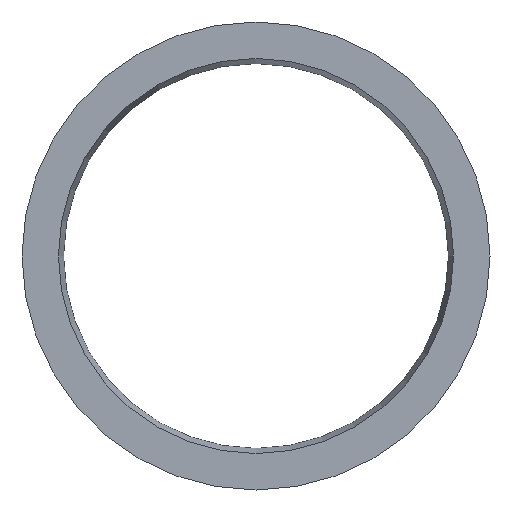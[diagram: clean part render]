
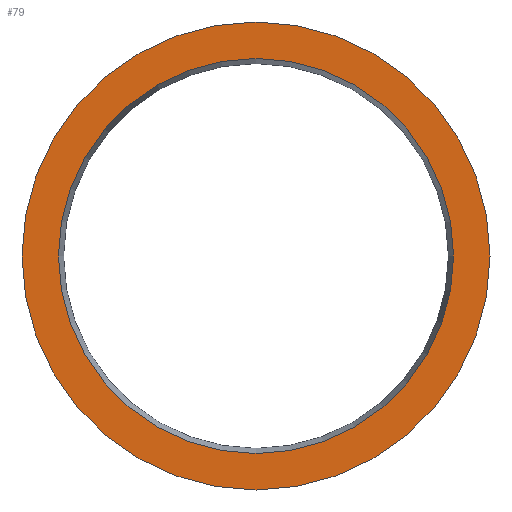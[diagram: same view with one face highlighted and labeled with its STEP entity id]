
A CAD part, front view. The second image highlights one B-rep face of the part: STEP entity #79.
In plain terms, the highlighted planar face has unit normal (0, -1, 0).
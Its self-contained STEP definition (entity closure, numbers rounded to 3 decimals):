
#79 = ADVANCED_FACE( '', ( #94, #95 ), #96, .T. );
#94 = FACE_OUTER_BOUND( '', #112, .T. );
#95 = FACE_BOUND( '', #113, .T. );
#96 = PLANE( '', #114 );
#112 = EDGE_LOOP( '', ( #138 ) );
#113 = EDGE_LOOP( '', ( #139 ) );
#114 = AXIS2_PLACEMENT_3D( '', #140, #141, #142 );
#138 = ORIENTED_EDGE( '', *, *, #153, .T. );
#139 = ORIENTED_EDGE( '', *, *, #152, .F. );
#140 = CARTESIAN_POINT( '', ( 13., 0., 0. ) );
#141 = DIRECTION( '', ( 0., -1., 0. ) );
#142 = DIRECTION( '', ( 0., 0., -1. ) );
#152 = EDGE_CURVE( '', #162, #162, #163, .T. );
#153 = EDGE_CURVE( '', #164, #164, #165, .T. );
#162 = VERTEX_POINT( '', #174 );
#163 = CIRCLE( '', #175, 13. );
#164 = VERTEX_POINT( '', #176 );
#165 = CIRCLE( '', #177, 15.4 );
#174 = CARTESIAN_POINT( '', ( 0., 0., -13. ) );
#175 = AXIS2_PLACEMENT_3D( '', #190, #191, #192 );
#176 = CARTESIAN_POINT( '', ( 0., 0., -15.4 ) );
#177 = AXIS2_PLACEMENT_3D( '', #193, #194, #195 );
#190 = CARTESIAN_POINT( '', ( 0., 0., 0. ) );
#191 = DIRECTION( '', ( 0., -1., 0. ) );
#192 = DIRECTION( '', ( 0., 0., -1. ) );
#193 = CARTESIAN_POINT( '', ( 0., 0., 0. ) );
#194 = DIRECTION( '', ( 0., -1., 0. ) );
#195 = DIRECTION( '', ( 0., 0., -1. ) );
